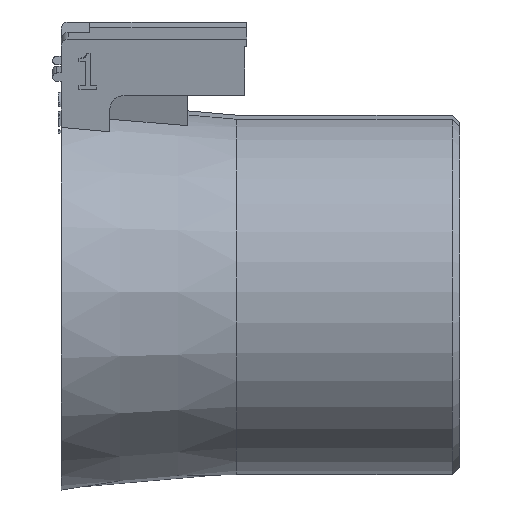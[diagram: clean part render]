
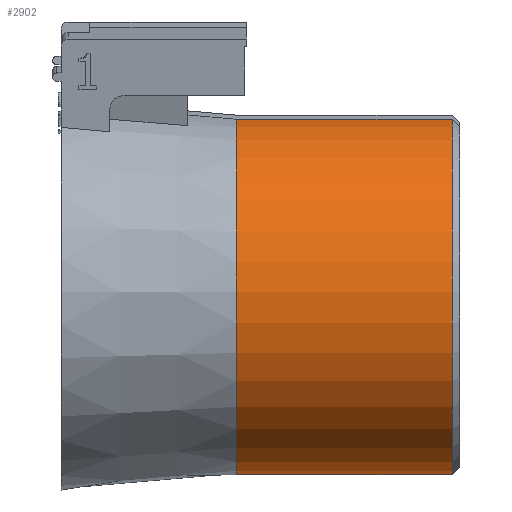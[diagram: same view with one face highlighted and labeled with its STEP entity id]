
A CAD part, front view. The second image highlights one B-rep face of the part: STEP entity #2902.
In plain terms, the highlighted cylindrical face has radius 12.5 mm (diameter 25 mm), a partial arc.
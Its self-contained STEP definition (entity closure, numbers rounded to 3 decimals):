
#48=CYLINDRICAL_SURFACE('',#3099,12.5);
#88=CIRCLE('',#3088,12.5);
#93=CIRCLE('',#3100,12.5);
#334=FACE_OUTER_BOUND('',#495,.T.);
#495=EDGE_LOOP('',(#2481,#2482,#2483,#2484));
#798=LINE('',#4744,#1115);
#818=LINE('',#4822,#1135);
#1115=VECTOR('',#3664,10.);
#1135=VECTOR('',#3718,10.);
#1400=VERTEX_POINT('',#4741);
#1401=VERTEX_POINT('',#4743);
#1406=VERTEX_POINT('',#4756);
#1423=VERTEX_POINT('',#4821);
#1766=EDGE_CURVE('',#1401,#1400,#798,.T.);
#1777=EDGE_CURVE('',#1406,#1400,#88,.T.);
#1800=EDGE_CURVE('',#1423,#1406,#818,.T.);
#1801=EDGE_CURVE('',#1401,#1423,#93,.T.);
#2481=ORIENTED_EDGE('',*,*,#1800,.F.);
#2482=ORIENTED_EDGE('',*,*,#1801,.F.);
#2483=ORIENTED_EDGE('',*,*,#1766,.T.);
#2484=ORIENTED_EDGE('',*,*,#1777,.F.);
#2902=ADVANCED_FACE('',(#334),#48,.T.);
#3088=AXIS2_PLACEMENT_3D('',#4769,#3680,#3681);
#3099=AXIS2_PLACEMENT_3D('',#4820,#3716,#3717);
#3100=AXIS2_PLACEMENT_3D('',#4823,#3719,#3720);
#3664=DIRECTION('',(-1.,0.,0.));
#3680=DIRECTION('center_axis',(-1.,0.,0.));
#3681=DIRECTION('ref_axis',(0.,-0.985,-0.174));
#3716=DIRECTION('center_axis',(-1.,0.,0.));
#3717=DIRECTION('ref_axis',(0.,-0.985,-0.174));
#3718=DIRECTION('',(-1.,0.,0.));
#3719=DIRECTION('center_axis',(1.,0.,0.));
#3720=DIRECTION('ref_axis',(0.,0.985,0.174));
#4741=CARTESIAN_POINT('',(11.43,-3.282,12.213));
#4743=CARTESIAN_POINT('',(26.5,-3.282,12.213));
#4744=CARTESIAN_POINT('',(19.215,-3.282,12.213));
#4756=CARTESIAN_POINT('',(11.43,0.533,-12.489));
#4769=CARTESIAN_POINT('Origin',(11.43,-1.111,-0.097));
#4820=CARTESIAN_POINT('Origin',(19.215,-1.111,-0.097));
#4821=CARTESIAN_POINT('',(26.5,0.533,-12.489));
#4822=CARTESIAN_POINT('',(19.215,0.533,-12.489));
#4823=CARTESIAN_POINT('Origin',(26.5,-1.111,-0.097));
